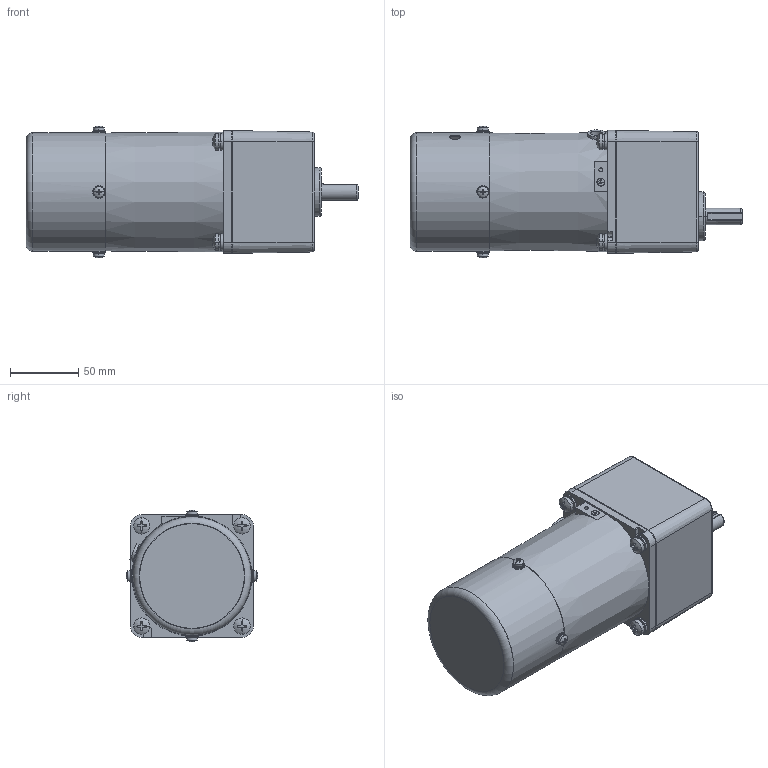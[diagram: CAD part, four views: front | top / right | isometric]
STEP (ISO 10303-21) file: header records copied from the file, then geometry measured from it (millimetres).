
FILE_DESCRIPTION(/* description */ (''),/* implementation_level */ '2;1');
FILE_NAME(/* name */ '5RK40GN-CMF',/* time_stamp */ '2015-09-29T09:19:36+08:00',/* author */ (''),/* organization */ (''),/* preprocessor_version */ 'ST-DEVELOPER v9',/* originating_system */ 'UGS - NX 4.0',/* authorisation */ '');
FILE_SCHEMA (('CONFIG_CONTROL_DESIGN'));
Length unit declared in the file: millimetre
Products named in the file (1): Admi1355ewmc
Bounding box: 243.5 x 96.71 x 96.71 mm (x, y, z)
Volume: 1129672.2 mm3; surface area: 151563.7 mm2
Topology: 46 solids, 46 shells, 877 faces, 2190 edges, 1442 vertices
Faces by surface type: plane 436, cylinder 336, sphere 40, cone 35, torus 27, bspline 2, extrusion 1
Full cylindrical faces by diameter (mm): 3 x1, 4 x4, 5.5 x1, 5.9 x1, 7 x4, 8.5 x1, 10 x1, 10.4 x2, 11 x2, 13 x1, 44 x1, 60 x1, 85 x2, 85.2 x1, 86.8 x1
Entity records: 27961 total; most frequent: CARTESIAN_POINT 6675, DIRECTION 4703, ORIENTED_EDGE 4200, EDGE_CURVE 2100, AXIS2_PLACEMENT_3D 1885, VERTEX_POINT 1418, EDGE_LOOP 1019, CIRCLE 1010
